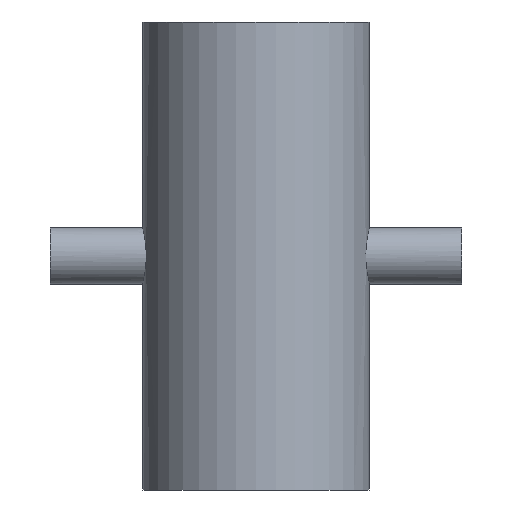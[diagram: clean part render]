
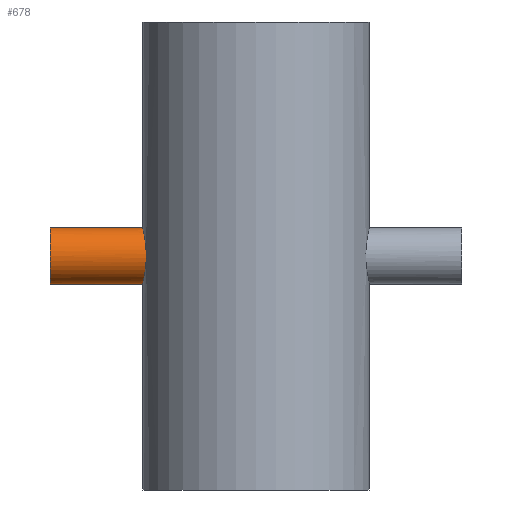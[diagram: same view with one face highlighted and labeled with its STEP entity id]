
A CAD part, front view. The second image highlights one B-rep face of the part: STEP entity #678.
In plain terms, the highlighted cylindrical face has radius 12.7 mm (diameter 25.4 mm), a partial arc.
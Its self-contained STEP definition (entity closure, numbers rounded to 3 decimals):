
#5 = ORIENTED_EDGE ( 'NONE', *, *, #51, .F. ) ;
#36 = CARTESIAN_POINT ( 'NONE',  ( -92.075, 0., -12.7 ) ) ;
#41 = CARTESIAN_POINT ( 'NONE',  ( -92.075, 0., 0. ) ) ;
#43 = DIRECTION ( 'NONE',  ( 1., 0., 0. ) ) ;
#49 = CARTESIAN_POINT ( 'NONE',  ( -50.487, -5.64, -11.387 ) ) ;
#51 = EDGE_CURVE ( 'NONE', #184, #209, #291, .T. ) ;
#61 = CARTESIAN_POINT ( 'NONE',  ( -49.946, -9.279, -8.681 ) ) ;
#69 = CARTESIAN_POINT ( 'NONE',  ( -49.643, -10.785, 6.72 ) ) ;
#106 = CARTESIAN_POINT ( 'NONE',  ( -49.893, -9.56, -8.371 ) ) ;
#109 = AXIS2_PLACEMENT_3D ( 'NONE', #271, #300, #316 ) ;
#140 = CARTESIAN_POINT ( 'NONE',  ( -49.79, -10.085, -7.731 ) ) ;
#154 = DIRECTION ( 'NONE',  ( 0., 0., -1. ) ) ;
#179 = CARTESIAN_POINT ( 'NONE',  ( -49.506, -11.393, -5.626 ) ) ;
#184 = VERTEX_POINT ( 'NONE', #309 ) ;
#190 = CARTESIAN_POINT ( 'NONE',  ( -50.8, -0.842, 12.7 ) ) ;
#201 = CARTESIAN_POINT ( 'NONE',  ( -49.466, -11.568, 5.258 ) ) ;
#205 = CARTESIAN_POINT ( 'NONE',  ( -49.739, -10.33, -7.399 ) ) ;
#209 = VERTEX_POINT ( 'NONE', #674 ) ;
#210 = CARTESIAN_POINT ( 'NONE',  ( -50.779, -1.67, 12.617 ) ) ;
#244 = CARTESIAN_POINT ( 'NONE',  ( -50.8, 0., 12.7 ) ) ;
#256 = CARTESIAN_POINT ( 'NONE',  ( -50.719, -2.891, 12.374 ) ) ;
#267 = CARTESIAN_POINT ( 'NONE',  ( -49.595, -11., 6.361 ) ) ;
#270 = CARTESIAN_POINT ( 'NONE',  ( -50.695, -3.294, 12.272 ) ) ;
#271 = CARTESIAN_POINT ( 'NONE',  ( -92.075, 0., 0. ) ) ;
#290 = DIRECTION ( 'NONE',  ( 1., 0., 0. ) ) ;
#291 = B_SPLINE_CURVE_WITH_KNOTS ( 'NONE', 3,
 ( #244, #190, #210, #256, #270, #397, #408, #555, #857, #853, #844, #778, #783, #771, #725, #69, #267, #714, #201, #860, #727, #468, #711, #649, #574, #608, #612, #652, #700, #868, #764, #697, #179, #566, #687, #205, #140, #106, #61, #785, #775, #499, #406, #49, #543, #630, #416, #833, #916, #642, #651, #346 ),
 .UNSPECIFIED., .F., .F.,
 ( 4, 2, 2, 2, 2, 2, 2, 2, 2, 2, 2, 2, 2, 2, 2, 2, 2, 2, 2, 2, 2, 2, 2, 2, 2, 4 ),
 ( 0., 0.002, 0.004, 0.005, 0.007, 0.009, 0.01, 0.012, 0.014, 0.015, 0.016, 0.017, 0.02, 0.021, 0.022, 0.025, 0.026, 0.027, 0.029, 0.03, 0.032, 0.034, 0.035, 0.037, 0.039, 0.04 ),
 .UNSPECIFIED. ) ;
#295 = VERTEX_POINT ( 'NONE', #900 ) ;
#300 = DIRECTION ( 'NONE',  ( 1., 0., 0. ) ) ;
#309 = CARTESIAN_POINT ( 'NONE',  ( -50.8, 0., 12.7 ) ) ;
#316 = DIRECTION ( 'NONE',  ( 0., 0., -1. ) ) ;
#346 = CARTESIAN_POINT ( 'NONE',  ( -50.8, 0., -12.7 ) ) ;
#363 = EDGE_CURVE ( 'NONE', #786, #295, #503, .T. ) ;
#397 = CARTESIAN_POINT ( 'NONE',  ( -50.636, -4.094, 12.029 ) ) ;
#406 = CARTESIAN_POINT ( 'NONE',  ( -50.4, -6.376, -10.992 ) ) ;
#408 = CARTESIAN_POINT ( 'NONE',  ( -50.603, -4.49, 11.887 ) ) ;
#416 = CARTESIAN_POINT ( 'NONE',  ( -50.698, -3.321, -12.287 ) ) ;
#426 = ORIENTED_EDGE ( 'NONE', *, *, #363, .T. ) ;
#468 = CARTESIAN_POINT ( 'NONE',  ( -49.296, -12.268, 3.309 ) ) ;
#499 = CARTESIAN_POINT ( 'NONE',  ( -50.353, -6.731, -10.778 ) ) ;
#503 = CIRCLE ( 'NONE', #109, 12.7 ) ;
#529 = EDGE_CURVE ( 'NONE', #786, #184, #586, .T. ) ;
#543 = CARTESIAN_POINT ( 'NONE',  ( -50.528, -5.261, -11.566 ) ) ;
#545 = CARTESIAN_POINT ( 'NONE',  ( -92.075, 0., 12.7 ) ) ;
#555 = CARTESIAN_POINT ( 'NONE',  ( -50.492, -5.642, 11.408 ) ) ;
#566 = CARTESIAN_POINT ( 'NONE',  ( -49.595, -11.001, -6.358 ) ) ;
#574 = CARTESIAN_POINT ( 'NONE',  ( -49.187, -12.699, 0.843 ) ) ;
#584 = EDGE_CURVE ( 'NONE', #295, #209, #631, .T. ) ;
#586 = LINE ( 'NONE', #854, #601 ) ;
#601 = VECTOR ( 'NONE', #862, 1000. ) ;
#608 = CARTESIAN_POINT ( 'NONE',  ( -49.187, -12.7, -0.404 ) ) ;
#612 = CARTESIAN_POINT ( 'NONE',  ( -49.192, -12.68, -0.822 ) ) ;
#630 = CARTESIAN_POINT ( 'NONE',  ( -50.639, -4.112, -12.044 ) ) ;
#631 = LINE ( 'NONE', #36, #646 ) ;
#642 = CARTESIAN_POINT ( 'NONE',  ( -50.795, -0.841, -12.679 ) ) ;
#646 = VECTOR ( 'NONE', #290, 1000. ) ;
#649 = CARTESIAN_POINT ( 'NONE',  ( -49.208, -12.618, 1.669 ) ) ;
#651 = CARTESIAN_POINT ( 'NONE',  ( -50.8, -0.421, -12.7 ) ) ;
#652 = CARTESIAN_POINT ( 'NONE',  ( -49.213, -12.598, -1.659 ) ) ;
#665 = ORIENTED_EDGE ( 'NONE', *, *, #584, .T. ) ;
#674 = CARTESIAN_POINT ( 'NONE',  ( -50.8, 0., -12.7 ) ) ;
#678 = ADVANCED_FACE ( 'NONE', ( #684 ), #728, .T. ) ;
#684 = FACE_OUTER_BOUND ( 'NONE', #871, .T. ) ;
#687 = CARTESIAN_POINT ( 'NONE',  ( -49.642, -10.789, -6.713 ) ) ;
#697 = CARTESIAN_POINT ( 'NONE',  ( -49.464, -11.573, -5.246 ) ) ;
#700 = CARTESIAN_POINT ( 'NONE',  ( -49.229, -12.537, -2.073 ) ) ;
#711 = CARTESIAN_POINT ( 'NONE',  ( -49.271, -12.372, 2.9 ) ) ;
#714 = CARTESIAN_POINT ( 'NONE',  ( -49.507, -11.391, 5.631 ) ) ;
#725 = CARTESIAN_POINT ( 'NONE',  ( -49.79, -10.088, 7.76 ) ) ;
#727 = CARTESIAN_POINT ( 'NONE',  ( -49.356, -12.025, 4.105 ) ) ;
#728 = CYLINDRICAL_SURFACE ( 'NONE', #802, 12.7 ) ;
#764 = CARTESIAN_POINT ( 'NONE',  ( -49.351, -12.052, -4.09 ) ) ;
#771 = CARTESIAN_POINT ( 'NONE',  ( -49.895, -9.564, 8.397 ) ) ;
#775 = CARTESIAN_POINT ( 'NONE',  ( -50.209, -7.76, -10.088 ) ) ;
#778 = CARTESIAN_POINT ( 'NONE',  ( -50.105, -8.383, 9.549 ) ) ;
#783 = CARTESIAN_POINT ( 'NONE',  ( -50.052, -8.689, 9.271 ) ) ;
#785 = CARTESIAN_POINT ( 'NONE',  ( -50.105, -8.397, -9.564 ) ) ;
#786 = VERTEX_POINT ( 'NONE', #545 ) ;
#792 = ORIENTED_EDGE ( 'NONE', *, *, #529, .F. ) ;
#802 = AXIS2_PLACEMENT_3D ( 'NONE', #41, #43, #154 ) ;
#833 = CARTESIAN_POINT ( 'NONE',  ( -50.758, -2.094, -12.533 ) ) ;
#844 = CARTESIAN_POINT ( 'NONE',  ( -50.208, -7.74, 10.078 ) ) ;
#853 = CARTESIAN_POINT ( 'NONE',  ( -50.259, -7.404, 10.327 ) ) ;
#854 = CARTESIAN_POINT ( 'NONE',  ( -92.075, 0., 12.7 ) ) ;
#857 = CARTESIAN_POINT ( 'NONE',  ( -50.404, -6.37, 11.018 ) ) ;
#860 = CARTESIAN_POINT ( 'NONE',  ( -49.39, -11.885, 4.495 ) ) ;
#862 = DIRECTION ( 'NONE',  ( 1., 0., 0. ) ) ;
#868 = CARTESIAN_POINT ( 'NONE',  ( -49.291, -12.293, -3.297 ) ) ;
#871 = EDGE_LOOP ( 'NONE', ( #792, #426, #665, #5 ) ) ;
#900 = CARTESIAN_POINT ( 'NONE',  ( -92.075, 0., -12.7 ) ) ;
#916 = CARTESIAN_POINT ( 'NONE',  ( -50.774, -1.677, -12.596 ) ) ;
